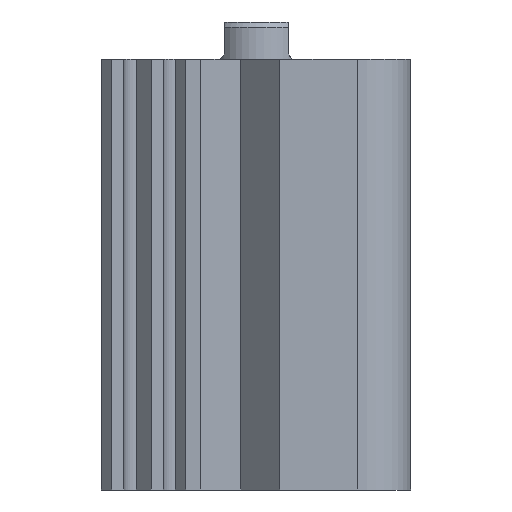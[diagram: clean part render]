
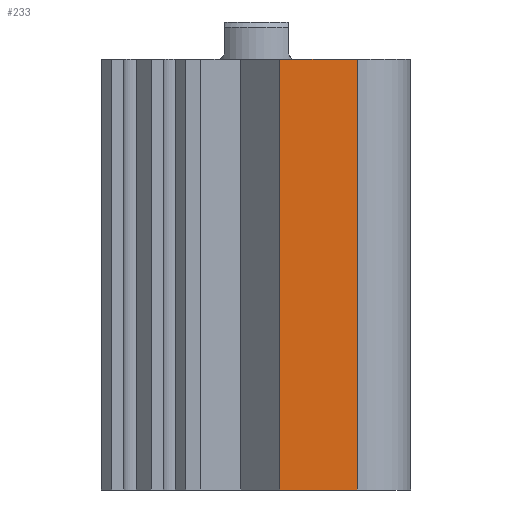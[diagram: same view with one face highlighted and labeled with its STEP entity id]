
A CAD part, front view. The second image highlights one B-rep face of the part: STEP entity #233.
In plain terms, the highlighted planar face has unit normal (0, -1, 0).
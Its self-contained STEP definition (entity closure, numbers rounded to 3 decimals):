
#233 = ADVANCED_FACE( '', ( #501 ), #502, .T. );
#501 = FACE_OUTER_BOUND( '', #819, .T. );
#502 = PLANE( '', #820 );
#819 = EDGE_LOOP( '', ( #1266, #1267, #1268, #1269 ) );
#820 = AXIS2_PLACEMENT_3D( '', #1270, #1271, #1272 );
#1266 = ORIENTED_EDGE( '', *, *, #1774, .F. );
#1267 = ORIENTED_EDGE( '', *, *, #1775, .F. );
#1268 = ORIENTED_EDGE( '', *, *, #1776, .T. );
#1269 = ORIENTED_EDGE( '', *, *, #1777, .T. );
#1270 = CARTESIAN_POINT( '', ( 2.196, -14.5, -40.5 ) );
#1271 = DIRECTION( '', ( 0., -1., 0. ) );
#1272 = DIRECTION( '', ( 0., 0., -1. ) );
#1774 = EDGE_CURVE( '', #2104, #2105, #2106, .T. );
#1775 = EDGE_CURVE( '', #2107, #2104, #2108, .T. );
#1776 = EDGE_CURVE( '', #2107, #2109, #2110, .T. );
#1777 = EDGE_CURVE( '', #2109, #2105, #2111, .T. );
#2104 = VERTEX_POINT( '', #2524 );
#2105 = VERTEX_POINT( '', #2525 );
#2106 = LINE( '', #2526, #2527 );
#2107 = VERTEX_POINT( '', #2528 );
#2108 = LINE( '', #2529, #2530 );
#2109 = VERTEX_POINT( '', #2531 );
#2110 = LINE( '', #2532, #2533 );
#2111 = LINE( '', #2534, #2535 );
#2524 = CARTESIAN_POINT( '', ( 2.196, -14.5, 0. ) );
#2525 = CARTESIAN_POINT( '', ( 9.5, -14.5, 0. ) );
#2526 = CARTESIAN_POINT( '', ( 2.196, -14.5, 0. ) );
#2527 = VECTOR( '', #2874, 1000. );
#2528 = CARTESIAN_POINT( '', ( 2.196, -14.5, -40.5 ) );
#2529 = CARTESIAN_POINT( '', ( 2.196, -14.5, -40.5 ) );
#2530 = VECTOR( '', #2875, 1000. );
#2531 = CARTESIAN_POINT( '', ( 9.5, -14.5, -40.5 ) );
#2532 = CARTESIAN_POINT( '', ( 2.196, -14.5, -40.5 ) );
#2533 = VECTOR( '', #2876, 1000. );
#2534 = CARTESIAN_POINT( '', ( 9.5, -14.5, -40.5 ) );
#2535 = VECTOR( '', #2877, 1000. );
#2874 = DIRECTION( '', ( 1., 0., 0. ) );
#2875 = DIRECTION( '', ( 0., 0., 1. ) );
#2876 = DIRECTION( '', ( 1., 0., 0. ) );
#2877 = DIRECTION( '', ( 0., 0., 1. ) );
